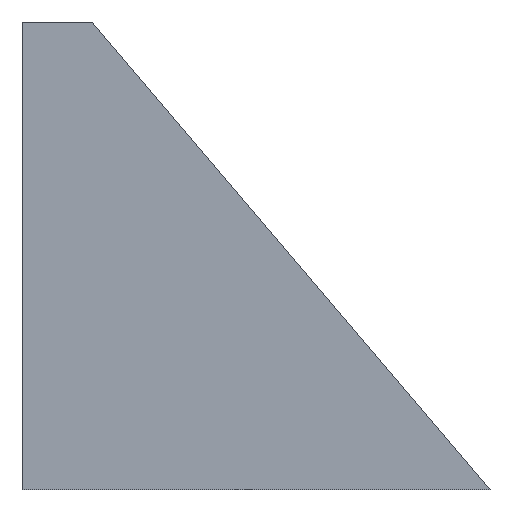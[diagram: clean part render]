
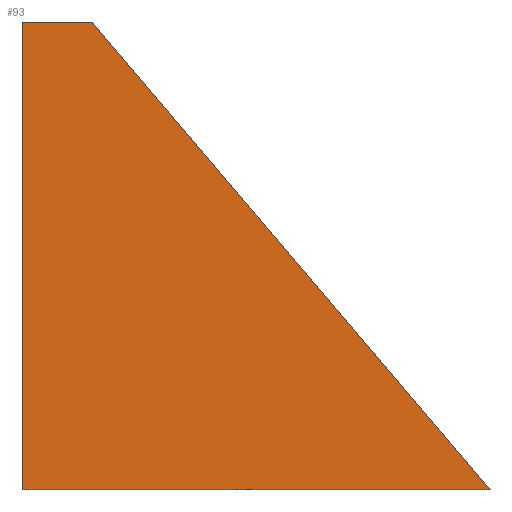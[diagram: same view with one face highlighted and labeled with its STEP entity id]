
A CAD part, left-side view. The second image highlights one B-rep face of the part: STEP entity #93.
In plain terms, the highlighted free-form (B-spline) face has degree [1, 1] with [2, 2] control points.
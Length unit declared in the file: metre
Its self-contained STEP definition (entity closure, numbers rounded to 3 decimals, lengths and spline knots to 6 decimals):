
#26=ORIENTED_EDGE('',*,*,#39,.T.);
#27=ORIENTED_EDGE('',*,*,#43,.F.);
#28=ORIENTED_EDGE('',*,*,#45,.T.);
#29=ORIENTED_EDGE('',*,*,#46,.T.);
#39=EDGE_CURVE('',#51,#50,#57,.T.);
#43=EDGE_CURVE('',#53,#50,#60,.T.);
#45=EDGE_CURVE('',#53,#54,#62,.T.);
#46=EDGE_CURVE('',#54,#51,#63,.T.);
#50=VERTEX_POINT('',#135);
#51=VERTEX_POINT('',#137);
#53=VERTEX_POINT('',#146);
#54=VERTEX_POINT('',#158);
#57=LINE('',#136,#66);
#60=LINE('',#147,#69);
#62=LINE('',#157,#71);
#63=LINE('',#159,#72);
#66=VECTOR('',#115,1.);
#69=VECTOR('',#120,1.);
#71=VECTOR('',#122,1.);
#72=VECTOR('',#123,1.);
#76=EDGE_LOOP('',(#26,#27,#28,#29));
#82=FACE_BOUND('',#76,.T.);
#88=B_SPLINE_SURFACE_WITH_KNOTS('',1,1,((#153,#154),(#155,#156)),
 .PLANE_SURF.,.F.,.F.,.F.,(2,2),(2,2),(0.,1.),(0.,1.),.UNSPECIFIED.);
#93=ADVANCED_FACE('',(#82),#88,.T.);
#115=DIRECTION('',(0.,-1.,0.));
#120=DIRECTION('',(0.,-0.648,-0.762));
#122=DIRECTION('',(0.,1.,0.));
#123=DIRECTION('',(0.,0.,-1.));
#135=CARTESIAN_POINT('',(0.190224,-0.02,-0.066016));
#136=CARTESIAN_POINT('',(0.190224,-0.0115,-0.066016));
#137=CARTESIAN_POINT('',(0.190224,0.,-0.066016));
#146=CARTESIAN_POINT('',(0.190224,-0.003,-0.046016));
#147=CARTESIAN_POINT('',(0.190224,-0.0115,-0.056016));
#153=CARTESIAN_POINT('',(0.190224,0.001006,-0.067016));
#154=CARTESIAN_POINT('',(0.190224,0.001006,-0.045016));
#155=CARTESIAN_POINT('',(0.190224,-0.021126,-0.067016));
#156=CARTESIAN_POINT('',(0.190224,-0.021126,-0.045016));
#157=CARTESIAN_POINT('',(0.190224,-0.003,-0.046016));
#158=CARTESIAN_POINT('',(0.190224,0.,-0.046016));
#159=CARTESIAN_POINT('',(0.190224,0.,-0.056016));
